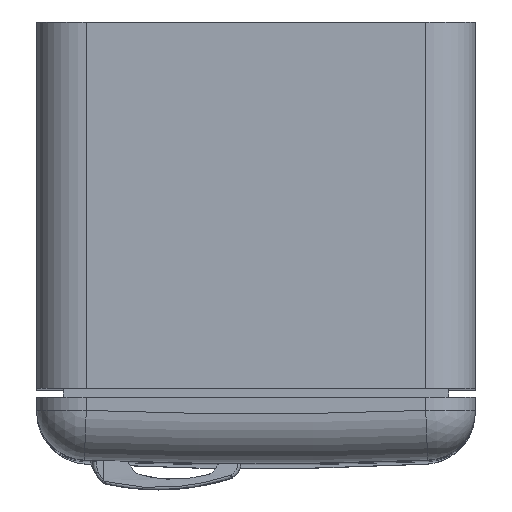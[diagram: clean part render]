
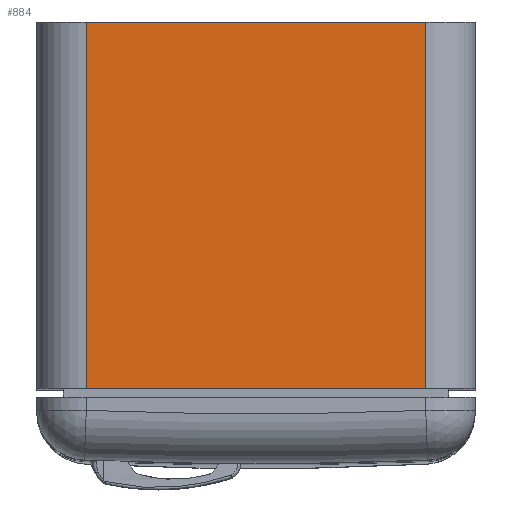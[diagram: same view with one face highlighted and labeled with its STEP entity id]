
A CAD part, top view. The second image highlights one B-rep face of the part: STEP entity #884.
In plain terms, the highlighted planar face has unit normal (0, 0, 1).
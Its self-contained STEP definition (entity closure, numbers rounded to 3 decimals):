
#593=FACE_OUTER_BOUND('',#1833,.T.);
#884=ADVANCED_FACE('',(#593),#1263,.F.);
#1263=PLANE('',#6003);
#1833=EDGE_LOOP('',(#2327,#2328,#2329,#2330));
#2327=ORIENTED_EDGE('',*,*,#4482,.F.);
#2328=ORIENTED_EDGE('',*,*,#4498,.T.);
#2329=ORIENTED_EDGE('',*,*,#4493,.T.);
#2330=ORIENTED_EDGE('',*,*,#4499,.T.);
#3931=VERTEX_POINT('',#8362);
#3932=VERTEX_POINT('',#8364);
#3941=VERTEX_POINT('',#8386);
#3942=VERTEX_POINT('',#8387);
#4482=EDGE_CURVE('',#3931,#3932,#5292,.T.);
#4493=EDGE_CURVE('',#3941,#3942,#5298,.T.);
#4498=EDGE_CURVE('',#3931,#3941,#5301,.T.);
#4499=EDGE_CURVE('',#3942,#3932,#5302,.T.);
#5292=LINE('',#8363,#5645);
#5298=LINE('',#8385,#5651);
#5301=LINE('',#8395,#5654);
#5302=LINE('',#8396,#5655);
#5645=VECTOR('',#6669,1.);
#5651=VECTOR('',#6689,1.);
#5654=VECTOR('',#6698,1.);
#5655=VECTOR('',#6699,1.);
#6003=AXIS2_PLACEMENT_3D('',#8397,#6700,#6701);
#6669=DIRECTION('',(1.,0.,0.));
#6689=DIRECTION('',(1.,0.,0.));
#6698=DIRECTION('',(0.,-1.,0.));
#6699=DIRECTION('',(0.,1.,0.));
#6700=DIRECTION('',(0.,0.,-1.));
#6701=DIRECTION('',(-1.,0.,0.));
#8362=CARTESIAN_POINT('',(690.652,486.429,2291.296));
#8363=CARTESIAN_POINT('',(600.652,486.429,2291.296));
#8364=CARTESIAN_POINT('',(1306.652,486.429,2291.296));
#8385=CARTESIAN_POINT('',(600.652,-178.571,2291.296));
#8386=CARTESIAN_POINT('',(690.652,-178.571,2291.296));
#8387=CARTESIAN_POINT('',(1306.652,-178.571,2291.296));
#8395=CARTESIAN_POINT('',(690.652,-178.571,2291.296));
#8396=CARTESIAN_POINT('',(1306.652,-178.571,2291.296));
#8397=CARTESIAN_POINT('',(600.652,-178.571,2291.296));
